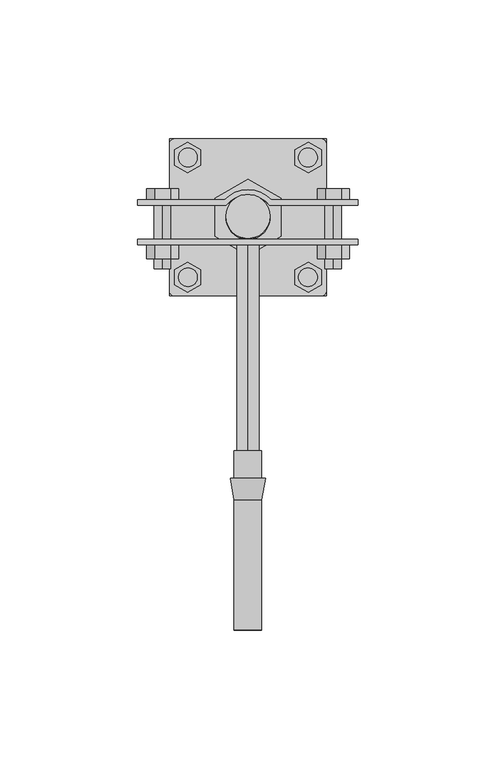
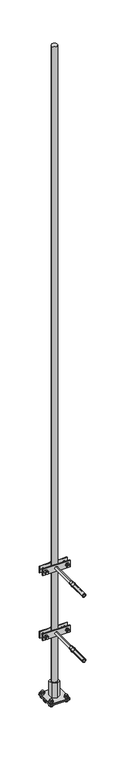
"""IFC4 building model written with IfcOpenShell, lengths in millimetres: proxy geometry, КНС_МолниеприемникСДержателями_DKC : NL7200CU_Медь_2м."""

from ifc_helpers import new_model, si_unit, point, frame, frame_2d, origin, origin_with_axes, place, context, project, spatial, polyline, circle_curve, trimmed, segment, composite_curve, outline, extrude, source, transform, mapped, element, save
from ifc_brep_helpers import plane_surface, cylinder_surface, revolved_surface, advanced_brep


def security_devices_8a53b376(model_context):
    return source(origin(), model_context, "Body", "SolidModel", [
        extrude(outline(composite_curve([segment(trimmed(circle_curve(frame_2d((0.0, 84.6885885)), 8.0), [point((0.0, 76.6885885))], [point((0.0, 92.6885885))], False, "CARTESIAN"), True, "CONTINUOUS"), segment(trimmed(circle_curve(frame_2d((0.0, 84.6885885)), 8.0), [point((0.0, 92.6885885))], [point((0.0, 76.6885885))], False, "CARTESIAN"), True, "CONTINUOUS")], self_intersect=False)), frame((0.0, 0.0, 2.5), z_axis=(0.0, 0.0, 1.0), x_axis=(1.0, 0.0, 0.0)), (0.0, 0.0, 1.0), 45.0),
        extrude(outline(composite_curve([segment(polyline([(56.1885885, -3.5), (56.1885885, -1.0), (79.6885885, -1.0)]), True, "CONTINUOUS"), segment(trimmed(circle_curve(frame_2d((84.6885885, -1.0)), 5.0), [point((79.6885885, -1.0))], [point((89.6885885, -1.0))], True, "CARTESIAN"), True, "CONTINUOUS"), segment(polyline([(89.6885885, -1.0), (113.1885885, -1.0), (113.1885885, -3.5), (91.7596563, -3.5)]), True, "CONTINUOUS"), segment(trimmed(circle_curve(frame_2d((84.6885885, -1.0)), 7.5), [point((91.7596563, -3.5))], [point((77.6175207, -3.5))], False, "CARTESIAN"), True, "CONTINUOUS"), segment(polyline([(77.6175207, -3.5), (56.1885885, -3.5)]), True, "CONTINUOUS")], self_intersect=False)), frame((-28.5, 0.0, 0.0), z_axis=(1.0, 0.0, 0.0), x_axis=(0.0, 1.0, 0.0)), (0.0, 0.0, 1.0), 57.0),
        extrude(outline(composite_curve([segment(trimmed(circle_curve(frame_2d((-21.78125, 62.9764828)), 3.4209609), [point((-21.78125, 59.5555219))], [point((-21.78125, 66.3974437))], False, "CARTESIAN"), True, "CONTINUOUS"), segment(trimmed(circle_curve(frame_2d((-21.78125, 62.9764828)), 3.4209609), [point((-21.78125, 66.3974437))], [point((-21.78125, 59.5555219))], False, "CARTESIAN"), True, "CONTINUOUS")], self_intersect=False)), frame((0.0, 0.0, -3.5), z_axis=(0.0, 0.0, 1.0), x_axis=(1.0, 0.0, 0.0)), (0.0, 0.0, 1.0), 13.5),
        extrude(outline(composite_curve([segment(trimmed(circle_curve(frame_2d((-21.78125, 106.4006942)), 3.4209609), [point((-21.78125, 102.9797333))], [point((-21.78125, 109.8216551))], False, "CARTESIAN"), True, "CONTINUOUS"), segment(trimmed(circle_curve(frame_2d((-21.78125, 106.4006942)), 3.4209609), [point((-21.78125, 109.8216551))], [point((-21.78125, 102.9797333))], False, "CARTESIAN"), True, "CONTINUOUS")], self_intersect=False)), frame((0.0, 0.0, -3.5), z_axis=(0.0, 0.0, 1.0), x_axis=(1.0, 0.0, 0.0)), (0.0, 0.0, 1.0), 13.5),
        extrude(outline(composite_curve([segment(trimmed(circle_curve(frame_2d((21.78125, 62.9764828)), 3.4209609), [point((21.78125, 59.5555219))], [point((21.78125, 66.3974437))], False, "CARTESIAN"), True, "CONTINUOUS"), segment(trimmed(circle_curve(frame_2d((21.78125, 62.9764828)), 3.4209609), [point((21.78125, 66.3974437))], [point((21.78125, 59.5555219))], False, "CARTESIAN"), True, "CONTINUOUS")], self_intersect=False)), frame((0.0, 0.0, -3.5), z_axis=(0.0, 0.0, 1.0), x_axis=(1.0, 0.0, 0.0)), (0.0, 0.0, 1.0), 13.5),
        extrude(outline(composite_curve([segment(trimmed(circle_curve(frame_2d((21.78125, 106.4006942)), 3.4209609), [point((21.78125, 102.9797333))], [point((21.78125, 109.8216551))], False, "CARTESIAN"), True, "CONTINUOUS"), segment(trimmed(circle_curve(frame_2d((21.78125, 106.4006942)), 3.4209609), [point((21.78125, 109.8216551))], [point((21.78125, 102.9797333))], False, "CARTESIAN"), True, "CONTINUOUS")], self_intersect=False)), frame((0.0, 0.0, -3.5), z_axis=(0.0, 0.0, 1.0), x_axis=(1.0, 0.0, 0.0)), (0.0, 0.0, 1.0), 13.5),
        extrude(outline(polyline([(-21.8883083, 57.4889661), (-26.6406371, 60.2327244), (-26.6406371, 65.7202411), (-21.8883083, 68.4639995), (-17.1359794, 65.7202411), (-17.1359794, 60.2327244), (-21.8883083, 57.4889661)])), frame((0.0, 0.0, 2.5), z_axis=(0.0, 0.0, 1.0), x_axis=(1.0, 0.0, 0.0)), (0.0, 0.0, 1.0), 5.0),
        extrude(outline(polyline([(-21.8883083, 111.8882109), (-17.1359794, 109.1444525), (-17.1359794, 103.6569358), (-21.8883083, 100.9131775), (-26.6406371, 103.6569358), (-26.6406371, 109.1444525), (-21.8883083, 111.8882109)])), frame((0.0, 0.0, 2.5), z_axis=(0.0, 0.0, 1.0), x_axis=(1.0, 0.0, 0.0)), (0.0, 0.0, 1.0), 5.0),
        extrude(outline(polyline([(21.8883083, 57.4889661), (17.1359794, 60.2327244), (17.1359794, 65.7202411), (21.8883083, 68.4639995), (26.6406371, 65.7202411), (26.6406371, 60.2327244), (21.8883083, 57.4889661)])), frame((0.0, 0.0, 2.5), z_axis=(0.0, 0.0, 1.0), x_axis=(1.0, 0.0, 0.0)), (0.0, 0.0, 1.0), 5.0),
        extrude(outline(polyline([(21.8883083, 111.8882109), (26.6406371, 109.1444525), (26.6406371, 103.6569358), (21.8883083, 100.9131775), (17.1359794, 103.6569358), (17.1359794, 109.1444525), (21.8883083, 111.8882109)])), frame((0.0, 0.0, 2.5), z_axis=(0.0, 0.0, 1.0), x_axis=(1.0, 0.0, 0.0)), (0.0, 0.0, 1.0), 5.0),
        extrude(outline(polyline([(-21.8883083, 57.4889661), (-26.6406371, 60.2327244), (-26.6406371, 65.7202411), (-21.8883083, 68.4639995), (-17.1359794, 65.7202411), (-17.1359794, 60.2327244), (-21.8883083, 57.4889661)])), frame((0.0, 0.0, -8.5), z_axis=(0.0, 0.0, 1.0), x_axis=(1.0, 0.0, 0.0)), (0.0, 0.0, 1.0), 5.0),
        extrude(outline(polyline([(-21.8883083, 111.8882109), (-17.1359794, 109.1444525), (-17.1359794, 103.6569358), (-21.8883083, 100.9131775), (-26.6406371, 103.6569358), (-26.6406371, 109.1444525), (-21.8883083, 111.8882109)])), frame((0.0, 0.0, -8.5), z_axis=(0.0, 0.0, 1.0), x_axis=(1.0, 0.0, 0.0)), (0.0, 0.0, 1.0), 5.0),
        extrude(outline(polyline([(21.8883083, 57.4889661), (17.1359794, 60.2327244), (17.1359794, 65.7202411), (21.8883083, 68.4639995), (26.6406371, 65.7202411), (26.6406371, 60.2327244), (21.8883083, 57.4889661)])), frame((0.0, 0.0, -8.5), z_axis=(0.0, 0.0, 1.0), x_axis=(1.0, 0.0, 0.0)), (0.0, 0.0, 1.0), 5.0),
        extrude(outline(polyline([(21.8883083, 111.8882109), (26.6406371, 109.1444525), (26.6406371, 103.6569358), (21.8883083, 100.9131775), (17.1359794, 103.6569358), (17.1359794, 109.1444525), (21.8883083, 111.8882109)])), frame((0.0, 0.0, -8.5), z_axis=(0.0, 0.0, 1.0), x_axis=(1.0, 0.0, 0.0)), (0.0, 0.0, 1.0), 5.0),
        extrude(outline(composite_curve([segment(trimmed(circle_curve(frame_2d((-26.5, 111.1885885)), 2.0), [point((-28.5, 111.1885885))], [point((-26.5, 113.1885885))], False, "CARTESIAN"), True, "CONTINUOUS"), segment(polyline([(-26.5, 113.1885885), (26.5, 113.1885885)]), True, "CONTINUOUS"), segment(trimmed(circle_curve(frame_2d((26.5, 111.1885885)), 2.0), [point((26.5, 113.1885885))], [point((28.5, 111.1885885))], False, "CARTESIAN"), True, "CONTINUOUS"), segment(polyline([(28.5, 111.1885885), (28.5, 58.1885885)]), True, "CONTINUOUS"), segment(trimmed(circle_curve(frame_2d((26.5, 58.1885885)), 2.0), [point((28.5, 58.1885885))], [point((26.5, 56.1885885))], False, "CARTESIAN"), True, "CONTINUOUS"), segment(polyline([(26.5, 56.1885885), (-26.5, 56.1885885)]), True, "CONTINUOUS"), segment(trimmed(circle_curve(frame_2d((-26.5, 58.1885885)), 2.0), [point((-26.5, 56.1885885))], [point((-28.5, 58.1885885))], False, "CARTESIAN"), True, "CONTINUOUS"), segment(polyline([(-28.5, 58.1885885), (-28.5, 111.1885885)]), True, "CONTINUOUS")], self_intersect=False)), origin_with_axes(), (0.0, 0.0, 1.0), 2.5),
        advanced_brep(
        [(-40.0, 74.6885885, 410.0), (40.0, 74.6885885, 410.0), (40.0, 76.6885885, 410.0), (-40.0, 76.6885885, 410.0), (-40.0, 74.6885885, 390.0), (-40.0, 76.6885885, 390.0), (40.0, 76.6885885, 390.0), (40.0, 74.6885885, 390.0), (0.0, 74.6885885, 404.0), (0.0, 74.6885885, 396.0), (0.0, -65.0, 396.0), (0.0, -65.0, 404.0)],
        [
            (0, 1),
            (1, 2),
            (2, 3),
            (3, 0),
            (4, 5),
            (5, 6),
            (6, 7),
            (7, 4),
            (0, 4),
            (7, 1),
            (8, 9, circle_curve(frame((0.0, 74.6885885, 400.0), z_axis=(0.0, 1.0, 0.0), x_axis=(0.0, 0.0, 1.0)), 4.0)),
            (9, 8, circle_curve(frame((0.0, 74.6885885, 400.0), z_axis=(0.0, 1.0, 0.0), x_axis=(0.0, 0.0, 1.0)), 4.0)),
            (6, 2),
            (5, 3),
            (10, 11, circle_curve(frame((0.0, -65.0, 400.0), z_axis=(0.0, -1.0, 0.0), x_axis=(0.0, 0.0, 1.0)), 4.0)),
            (11, 10, circle_curve(frame((0.0, -65.0, 400.0), z_axis=(0.0, -1.0, 0.0), x_axis=(0.0, 0.0, 1.0)), 4.0)),
            (10, 9),
            (8, 11),
        ],
        [
            plane_surface(frame((-40.0, 74.6885885, 410.0), z_axis=(0.0, 0.0, 1.0), x_axis=(1.0, 0.0, 0.0))),
            plane_surface(frame((-40.0, 74.6885885, 390.0), z_axis=(0.0, 0.0, -1.0), x_axis=(-1.0, 0.0, 0.0))),
            plane_surface(frame((-40.0, 74.6885885, 410.0), z_axis=(0.0, -1.0, 0.0), x_axis=(0.0, 0.0, -1.0))),
            plane_surface(frame((40.0, 74.6885885, 410.0), z_axis=(1.0, 0.0, 0.0), x_axis=(0.0, 0.0, -1.0))),
            plane_surface(frame((40.0, 76.6885885, 410.0), z_axis=(0.0, 1.0, 0.0), x_axis=(0.0, 0.0, -1.0))),
            plane_surface(frame((-40.0, 76.6885885, 410.0), z_axis=(-1.0, 0.0, 0.0), x_axis=(0.0, 0.0, -1.0))),
            plane_surface(frame((0.0, -65.0, 404.0), z_axis=(0.0, -1.0, 0.0), x_axis=(-1.0, 0.0, 0.0))),
            cylinder_surface(frame((0.0, 76.6885885, 400.0), z_axis=(0.0, -1.0, 0.0), x_axis=(0.0, 0.0, 1.0)), 4.0),
        ],
        [
            (0, [[1, 2, 3, 4]]),
            (1, [[5, 6, 7, 8]]),
            (2, [[-1, 9, -8, 10], [11, 12]]),
            (3, [[-2, -10, -7, 13]]),
            (4, [[-3, -13, -6, 14]]),
            (5, [[-4, -14, -5, -9]]),
            (6, [[15, 16]]),
            (7, [[-15, 17, -11, 18]]),
            (7, [[-16, -18, -12, -17]]),
        ],
    ),
        advanced_brep(
        [(6.3810583, -10.0, 400.0), (-6.3810583, -10.0, 400.0), (-5.0, -10.0, 400.0), (5.0, -10.0, 400.0), (5.0, -17.8323707, 400.0), (-5.0, -17.8323707, 400.0), (5.0, -65.0, 400.0), (-5.0, -65.0, 400.0), (3.0, -65.0, 400.0), (-3.0, -65.0, 400.0), (3.0, 0.0, 400.0), (-3.0, 0.0, 400.0), (5.0, 0.0, 400.0), (-5.0, 0.0, 400.0)],
        [
            (0, 1, circle_curve(frame((0.0, -10.0, 400.0), z_axis=(0.0, 1.0, 0.0), x_axis=(-1.0, 0.0, 0.0)), 6.3810583)),
            (1, 2),
            (2, 3, circle_curve(frame((0.0, -10.0, 400.0), z_axis=(0.0, -1.0, 0.0), x_axis=(-1.0, 0.0, 0.0)), 5.0)),
            (3, 0),
            (1, 0, circle_curve(frame((0.0, -10.0, 400.0), z_axis=(0.0, 1.0, 0.0), x_axis=(-1.0, 0.0, 0.0)), 6.3810583)),
            (3, 2, circle_curve(frame((0.0, -10.0, 400.0), z_axis=(0.0, -1.0, 0.0), x_axis=(-1.0, 0.0, 0.0)), 5.0)),
            (4, 5, circle_curve(frame((0.0, -17.8323707, 400.0), z_axis=(0.0, 1.0, 0.0), x_axis=(-1.0, 0.0, 0.0)), 5.0)),
            (5, 1),
            (0, 4),
            (5, 4, circle_curve(frame((0.0, -17.8323707, 400.0), z_axis=(0.0, 1.0, 0.0), x_axis=(-1.0, 0.0, 0.0)), 5.0)),
            (6, 7, circle_curve(frame((0.0, -65.0, 400.0), z_axis=(0.0, 1.0, 0.0), x_axis=(-1.0, 0.0, 0.0)), 5.0)),
            (7, 5),
            (4, 6),
            (7, 6, circle_curve(frame((0.0, -65.0, 400.0), z_axis=(0.0, 1.0, 0.0), x_axis=(-1.0, 0.0, 0.0)), 5.0)),
            (8, 9, circle_curve(frame((0.0, -65.0, 400.0), z_axis=(0.0, 1.0, 0.0), x_axis=(-1.0, 0.0, 0.0)), 3.0)),
            (9, 7),
            (6, 8),
            (9, 8, circle_curve(frame((0.0, -65.0, 400.0), z_axis=(0.0, 1.0, 0.0), x_axis=(-1.0, 0.0, 0.0)), 3.0)),
            (10, 11, circle_curve(frame((0.0, 0.0, 400.0), z_axis=(0.0, 1.0, 0.0), x_axis=(-1.0, 0.0, 0.0)), 3.0)),
            (11, 9),
            (8, 10),
            (11, 10, circle_curve(frame((0.0, 0.0, 400.0), z_axis=(0.0, 1.0, 0.0), x_axis=(-1.0, 0.0, 0.0)), 3.0)),
            (12, 13, circle_curve(frame((0.0, 0.0, 400.0), z_axis=(0.0, 1.0, 0.0), x_axis=(-1.0, 0.0, 0.0)), 5.0)),
            (13, 11),
            (10, 12),
            (13, 12, circle_curve(frame((0.0, 0.0, 400.0), z_axis=(0.0, 1.0, 0.0), x_axis=(-1.0, 0.0, 0.0)), 5.0)),
            (2, 13),
            (12, 3),
        ],
        [
            plane_surface(frame((0.0, -10.0, 400.0), z_axis=(0.0, 1.0, 0.0), x_axis=(-1.0, 0.0, 0.0))),
            revolved_surface(polyline([(-6.3810583, -10.0, 400.0), (-5.0, -17.8323707, 400.0)]), (0.0, 2000.0, 400.0), (0.0, -1.0, 0.0)),
            cylinder_surface(frame((0.0, 2000.0, 400.0), z_axis=(0.0, -1.0, 0.0), x_axis=(-1.0, 0.0, 0.0)), 5.0),
            plane_surface(frame((0.0, -65.0, 400.0), z_axis=(0.0, -1.0, 0.0), x_axis=(-1.0, 0.0, 0.0))),
            revolved_surface(polyline([(-3.0, -65.0, 400.0), (-3.0, 0.0, 400.0)]), (0.0, 2000.0, 400.0), (0.0, -1.0, 0.0)),
            plane_surface(frame((0.0, 0.0, 400.0), z_axis=(0.0, 1.0, 0.0), x_axis=(-1.0, 0.0, 0.0))),
        ],
        [
            (0, [[1, 2, 3, 4]]),
            (0, [[5, -4, 6, -2]]),
            (1, [[7, 8, -1, 9]]),
            (1, [[10, -9, -5, -8]]),
            (2, [[11, 12, -7, 13]]),
            (2, [[14, -13, -10, -12]]),
            (3, [[15, 16, -11, 17]]),
            (3, [[18, -17, -14, -16]]),
            (4, [[19, 20, -15, 21]]),
            (4, [[22, -21, -18, -20]]),
            (5, [[23, 24, -19, 25]]),
            (5, [[26, -25, -22, -24]]),
            (2, [[-3, 27, -23, 28]]),
            (2, [[-6, -28, -26, -27]]),
        ],
    ),
        extrude(outline(polyline([(400.0, 36.7735027), (405.0, 33.8867513), (405.0, 28.1132487), (400.0, 25.2264973), (395.0, 28.1132487), (395.0, 33.8867513), (400.0, 36.7735027)])), frame((0.0, 69.6885885, 0.0), z_axis=(0.0, 1.0, 0.0), x_axis=(0.0, 0.0, 1.0)), (0.0, 0.0, 1.0), 5.0),
        extrude(outline(polyline([(400.0, -25.2264973), (405.0, -28.1132487), (405.0, -33.8867513), (400.0, -36.7735027), (395.0, -33.8867513), (395.0, -28.1132487), (400.0, -25.2264973)])), frame((0.0, 69.6885885, 0.0), z_axis=(0.0, 1.0, 0.0), x_axis=(0.0, 0.0, 1.0)), (0.0, 0.0, 1.0), 5.0),
        extrude(outline(composite_curve([segment(trimmed(circle_curve(frame_2d((400.0, 31.0)), 3.0), [point((397.0, 31.0))], [point((403.0, 31.0))], False, "CARTESIAN"), True, "CONTINUOUS"), segment(trimmed(circle_curve(frame_2d((400.0, 31.0)), 3.0), [point((403.0, 31.0))], [point((397.0, 31.0))], False, "CARTESIAN"), True, "CONTINUOUS")], self_intersect=False)), frame((0.0, 66.0, 0.0), z_axis=(0.0, 1.0, 0.0), x_axis=(0.0, 0.0, 1.0)), (0.0, 0.0, 1.0), 25.0),
        extrude(outline(polyline([(400.0, 36.7735027), (405.0, 33.8867513), (405.0, 28.1132487), (400.0, 25.2264973), (395.0, 28.1132487), (395.0, 33.8867513), (400.0, 36.7735027)])), frame((0.0, 91.0, 0.0), z_axis=(0.0, 1.0, 0.0), x_axis=(0.0, 0.0, 1.0)), (0.0, 0.0, 1.0), 4.0),
        extrude(outline(polyline([(400.0, -25.2264973), (405.0, -28.1132487), (405.0, -33.8867513), (400.0, -36.7735027), (395.0, -33.8867513), (395.0, -28.1132487), (400.0, -25.2264973)])), frame((0.0, 91.0, 0.0), z_axis=(0.0, 1.0, 0.0), x_axis=(0.0, 0.0, 1.0)), (0.0, 0.0, 1.0), 4.0),
        extrude(outline(composite_curve([segment(trimmed(circle_curve(frame_2d((400.0, -31.0)), 3.0), [point((397.0, -31.0))], [point((403.0, -31.0))], False, "CARTESIAN"), True, "CONTINUOUS"), segment(trimmed(circle_curve(frame_2d((400.0, -31.0)), 3.0), [point((403.0, -31.0))], [point((397.0, -31.0))], False, "CARTESIAN"), True, "CONTINUOUS")], self_intersect=False)), frame((0.0, 66.0, 0.0), z_axis=(0.0, 1.0, 0.0), x_axis=(0.0, 0.0, 1.0)), (0.0, 0.0, 1.0), 25.0),
        extrude(outline(composite_curve([segment(trimmed(circle_curve(frame_2d((0.0, 82.8700945)), 11.7620306), [point((-8.5, 91.0))], [point((8.5, 91.0))], False, "CARTESIAN"), True, "CONTINUOUS"), segment(polyline([(8.5, 91.0), (40.0, 91.0), (40.0, 89.0), (7.9035116, 89.0)]), True, "CONTINUOUS"), segment(trimmed(circle_curve(frame_2d((0.0, 82.3768959)), 10.3116926), [point((7.9035116, 89.0))], [point((-7.9035116, 89.0))], True, "CARTESIAN"), True, "CONTINUOUS"), segment(polyline([(-7.9035116, 89.0), (-40.0, 89.0), (-40.0, 91.0), (-8.5, 91.0)]), True, "CONTINUOUS")], self_intersect=False)), frame((0.0, 0.0, 390.0), z_axis=(0.0, 0.0, 1.0), x_axis=(1.0, 0.0, 0.0)), (0.0, 0.0, 1.0), 20.0),
        advanced_brep(
        [(-40.0, 74.6885885, 210.0), (40.0, 74.6885885, 210.0), (40.0, 76.6885885, 210.0), (-40.0, 76.6885885, 210.0), (-40.0, 74.6885885, 190.0), (-40.0, 76.6885885, 190.0), (40.0, 76.6885885, 190.0), (40.0, 74.6885885, 190.0), (0.0, 74.6885885, 204.0), (0.0, 74.6885885, 196.0), (0.0, -65.0, 196.0), (0.0, -65.0, 204.0)],
        [
            (0, 1),
            (1, 2),
            (2, 3),
            (3, 0),
            (4, 5),
            (5, 6),
            (6, 7),
            (7, 4),
            (0, 4),
            (7, 1),
            (8, 9, circle_curve(frame((0.0, 74.6885885, 200.0), z_axis=(0.0, 1.0, 0.0), x_axis=(0.0, 0.0, 1.0)), 4.0)),
            (9, 8, circle_curve(frame((0.0, 74.6885885, 200.0), z_axis=(0.0, 1.0, 0.0), x_axis=(0.0, 0.0, 1.0)), 4.0)),
            (6, 2),
            (5, 3),
            (10, 11, circle_curve(frame((0.0, -65.0, 200.0), z_axis=(0.0, -1.0, 0.0), x_axis=(0.0, 0.0, 1.0)), 4.0)),
            (11, 10, circle_curve(frame((0.0, -65.0, 200.0), z_axis=(0.0, -1.0, 0.0), x_axis=(0.0, 0.0, 1.0)), 4.0)),
            (10, 9),
            (8, 11),
        ],
        [
            plane_surface(frame((-40.0, 74.6885885, 210.0), z_axis=(0.0, 0.0, 1.0), x_axis=(1.0, 0.0, 0.0))),
            plane_surface(frame((-40.0, 74.6885885, 190.0), z_axis=(0.0, 0.0, -1.0), x_axis=(-1.0, 0.0, 0.0))),
            plane_surface(frame((-40.0, 74.6885885, 210.0), z_axis=(0.0, -1.0, 0.0), x_axis=(0.0, 0.0, -1.0))),
            plane_surface(frame((40.0, 74.6885885, 210.0), z_axis=(1.0, 0.0, 0.0), x_axis=(0.0, 0.0, -1.0))),
            plane_surface(frame((40.0, 76.6885885, 210.0), z_axis=(0.0, 1.0, 0.0), x_axis=(0.0, 0.0, -1.0))),
            plane_surface(frame((-40.0, 76.6885885, 210.0), z_axis=(-1.0, 0.0, 0.0), x_axis=(0.0, 0.0, -1.0))),
            plane_surface(frame((0.0, -65.0, 204.0), z_axis=(0.0, -1.0, 0.0), x_axis=(-1.0, 0.0, 0.0))),
            cylinder_surface(frame((0.0, 76.6885885, 200.0), z_axis=(0.0, -1.0, 0.0), x_axis=(0.0, 0.0, 1.0)), 4.0),
        ],
        [
            (0, [[1, 2, 3, 4]]),
            (1, [[5, 6, 7, 8]]),
            (2, [[-1, 9, -8, 10], [11, 12]]),
            (3, [[-2, -10, -7, 13]]),
            (4, [[-3, -13, -6, 14]]),
            (5, [[-4, -14, -5, -9]]),
            (6, [[15, 16]]),
            (7, [[-15, 17, -11, 18]]),
            (7, [[-16, -18, -12, -17]]),
        ],
    ),
        advanced_brep(
        [(6.3810583, -10.0, 200.0), (-6.3810583, -10.0, 200.0), (-5.0, -10.0, 200.0), (5.0, -10.0, 200.0), (5.0, -17.8323707, 200.0), (-5.0, -17.8323707, 200.0), (5.0, -65.0, 200.0), (-5.0, -65.0, 200.0), (3.0, -65.0, 200.0), (-3.0, -65.0, 200.0), (3.0, 0.0, 200.0), (-3.0, 0.0, 200.0), (5.0, 0.0, 200.0), (-5.0, 0.0, 200.0)],
        [
            (0, 1, circle_curve(frame((0.0, -10.0, 200.0), z_axis=(0.0, 1.0, 0.0), x_axis=(-1.0, 0.0, 0.0)), 6.3810583)),
            (1, 2),
            (2, 3, circle_curve(frame((0.0, -10.0, 200.0), z_axis=(0.0, -1.0, 0.0), x_axis=(-1.0, 0.0, 0.0)), 5.0)),
            (3, 0),
            (1, 0, circle_curve(frame((0.0, -10.0, 200.0), z_axis=(0.0, 1.0, 0.0), x_axis=(-1.0, 0.0, 0.0)), 6.3810583)),
            (3, 2, circle_curve(frame((0.0, -10.0, 200.0), z_axis=(0.0, -1.0, 0.0), x_axis=(-1.0, 0.0, 0.0)), 5.0)),
            (4, 5, circle_curve(frame((0.0, -17.8323707, 200.0), z_axis=(0.0, 1.0, 0.0), x_axis=(-1.0, 0.0, 0.0)), 5.0)),
            (5, 1),
            (0, 4),
            (5, 4, circle_curve(frame((0.0, -17.8323707, 200.0), z_axis=(0.0, 1.0, 0.0), x_axis=(-1.0, 0.0, 0.0)), 5.0)),
            (6, 7, circle_curve(frame((0.0, -65.0, 200.0), z_axis=(0.0, 1.0, 0.0), x_axis=(-1.0, 0.0, 0.0)), 5.0)),
            (7, 5),
            (4, 6),
            (7, 6, circle_curve(frame((0.0, -65.0, 200.0), z_axis=(0.0, 1.0, 0.0), x_axis=(-1.0, 0.0, 0.0)), 5.0)),
            (8, 9, circle_curve(frame((0.0, -65.0, 200.0), z_axis=(0.0, 1.0, 0.0), x_axis=(-1.0, 0.0, 0.0)), 3.0)),
            (9, 7),
            (6, 8),
            (9, 8, circle_curve(frame((0.0, -65.0, 200.0), z_axis=(0.0, 1.0, 0.0), x_axis=(-1.0, 0.0, 0.0)), 3.0)),
            (10, 11, circle_curve(frame((0.0, 0.0, 200.0), z_axis=(0.0, 1.0, 0.0), x_axis=(-1.0, 0.0, 0.0)), 3.0)),
            (11, 9),
            (8, 10),
            (11, 10, circle_curve(frame((0.0, 0.0, 200.0), z_axis=(0.0, 1.0, 0.0), x_axis=(-1.0, 0.0, 0.0)), 3.0)),
            (12, 13, circle_curve(frame((0.0, 0.0, 200.0), z_axis=(0.0, 1.0, 0.0), x_axis=(-1.0, 0.0, 0.0)), 5.0)),
            (13, 11),
            (10, 12),
            (13, 12, circle_curve(frame((0.0, 0.0, 200.0), z_axis=(0.0, 1.0, 0.0), x_axis=(-1.0, 0.0, 0.0)), 5.0)),
            (2, 13),
            (12, 3),
        ],
        [
            plane_surface(frame((0.0, -10.0, 200.0), z_axis=(0.0, 1.0, 0.0), x_axis=(-1.0, 0.0, 0.0))),
            revolved_surface(polyline([(-6.3810583, -10.0, 200.0), (-5.0, -17.8323707, 200.0)]), (0.0, 2000.0, 200.0), (0.0, -1.0, 0.0)),
            cylinder_surface(frame((0.0, 2000.0, 200.0), z_axis=(0.0, -1.0, 0.0), x_axis=(-1.0, 0.0, 0.0)), 5.0),
            plane_surface(frame((0.0, -65.0, 200.0), z_axis=(0.0, -1.0, 0.0), x_axis=(-1.0, 0.0, 0.0))),
            revolved_surface(polyline([(-3.0, -65.0, 200.0), (-3.0, 0.0, 200.0)]), (0.0, 2000.0, 200.0), (0.0, -1.0, 0.0)),
            plane_surface(frame((0.0, 0.0, 200.0), z_axis=(0.0, 1.0, 0.0), x_axis=(-1.0, 0.0, 0.0))),
        ],
        [
            (0, [[1, 2, 3, 4]]),
            (0, [[5, -4, 6, -2]]),
            (1, [[7, 8, -1, 9]]),
            (1, [[10, -9, -5, -8]]),
            (2, [[11, 12, -7, 13]]),
            (2, [[14, -13, -10, -12]]),
            (3, [[15, 16, -11, 17]]),
            (3, [[18, -17, -14, -16]]),
            (4, [[19, 20, -15, 21]]),
            (4, [[22, -21, -18, -20]]),
            (5, [[23, 24, -19, 25]]),
            (5, [[26, -25, -22, -24]]),
            (2, [[-3, 27, -23, 28]]),
            (2, [[-6, -28, -26, -27]]),
        ],
    ),
        extrude(outline(polyline([(200.0, 36.7735027), (205.0, 33.8867513), (205.0, 28.1132487), (200.0, 25.2264973), (195.0, 28.1132487), (195.0, 33.8867513), (200.0, 36.7735027)])), frame((0.0, 69.6885885, 0.0), z_axis=(0.0, 1.0, 0.0), x_axis=(0.0, 0.0, 1.0)), (0.0, 0.0, 1.0), 5.0),
        extrude(outline(polyline([(200.0, -25.2264973), (205.0, -28.1132487), (205.0, -33.8867513), (200.0, -36.7735027), (195.0, -33.8867513), (195.0, -28.1132487), (200.0, -25.2264973)])), frame((0.0, 69.6885885, 0.0), z_axis=(0.0, 1.0, 0.0), x_axis=(0.0, 0.0, 1.0)), (0.0, 0.0, 1.0), 5.0),
        extrude(outline(composite_curve([segment(trimmed(circle_curve(frame_2d((200.0, 31.0)), 3.0), [point((197.0, 31.0))], [point((203.0, 31.0))], False, "CARTESIAN"), True, "CONTINUOUS"), segment(trimmed(circle_curve(frame_2d((200.0, 31.0)), 3.0), [point((203.0, 31.0))], [point((197.0, 31.0))], False, "CARTESIAN"), True, "CONTINUOUS")], self_intersect=False)), frame((0.0, 66.0, 0.0), z_axis=(0.0, 1.0, 0.0), x_axis=(0.0, 0.0, 1.0)), (0.0, 0.0, 1.0), 25.0),
        extrude(outline(polyline([(200.0, 36.7735027), (205.0, 33.8867513), (205.0, 28.1132487), (200.0, 25.2264973), (195.0, 28.1132487), (195.0, 33.8867513), (200.0, 36.7735027)])), frame((0.0, 91.0, 0.0), z_axis=(0.0, 1.0, 0.0), x_axis=(0.0, 0.0, 1.0)), (0.0, 0.0, 1.0), 4.0),
        extrude(outline(polyline([(200.0, -25.2264973), (205.0, -28.1132487), (205.0, -33.8867513), (200.0, -36.7735027), (195.0, -33.8867513), (195.0, -28.1132487), (200.0, -25.2264973)])), frame((0.0, 91.0, 0.0), z_axis=(0.0, 1.0, 0.0), x_axis=(0.0, 0.0, 1.0)), (0.0, 0.0, 1.0), 4.0),
        extrude(outline(composite_curve([segment(trimmed(circle_curve(frame_2d((200.0, -31.0)), 3.0), [point((197.0, -31.0))], [point((203.0, -31.0))], False, "CARTESIAN"), True, "CONTINUOUS"), segment(trimmed(circle_curve(frame_2d((200.0, -31.0)), 3.0), [point((203.0, -31.0))], [point((197.0, -31.0))], False, "CARTESIAN"), True, "CONTINUOUS")], self_intersect=False)), frame((0.0, 66.0, 0.0), z_axis=(0.0, 1.0, 0.0), x_axis=(0.0, 0.0, 1.0)), (0.0, 0.0, 1.0), 25.0),
        extrude(outline(composite_curve([segment(trimmed(circle_curve(frame_2d((0.0, 82.8700945)), 11.7620306), [point((-8.5, 91.0))], [point((8.5, 91.0))], False, "CARTESIAN"), True, "CONTINUOUS"), segment(polyline([(8.5, 91.0), (40.0, 91.0), (40.0, 89.0), (7.9035116, 89.0)]), True, "CONTINUOUS"), segment(trimmed(circle_curve(frame_2d((0.0, 82.3768959)), 10.3116926), [point((7.9035116, 89.0))], [point((-7.9035116, 89.0))], True, "CARTESIAN"), True, "CONTINUOUS"), segment(polyline([(-7.9035116, 89.0), (-40.0, 89.0), (-40.0, 91.0), (-8.5, 91.0)]), True, "CONTINUOUS")], self_intersect=False)), frame((0.0, 0.0, 190.0), z_axis=(0.0, 0.0, 1.0), x_axis=(1.0, 0.0, 0.0)), (0.0, 0.0, 1.0), 20.0),
        extrude(outline(polyline([(0.0, 98.5449949), (12.0, 91.6167917), (12.0, 77.7603852), (0.0, 70.832182), (-12.0, 77.7603852), (-12.0, 91.6167917), (0.0, 98.5449949)])), frame((0.0, 0.0, 2.5), z_axis=(0.0, 0.0, 1.0), x_axis=(1.0, 0.0, 0.0)), (0.0, 0.0, 1.0), 45.0),
        extrude(outline(composite_curve([segment(trimmed(circle_curve(frame_2d((0.0, 84.6885885)), 8.0), [point((-8.0, 84.6885885))], [point((8.0, 84.6885885))], False, "CARTESIAN"), True, "CONTINUOUS"), segment(trimmed(circle_curve(frame_2d((0.0, 84.6885885)), 8.0), [point((8.0, 84.6885885))], [point((-8.0, 84.6885885))], False, "CARTESIAN"), True, "CONTINUOUS")], self_intersect=False)), origin_with_axes(), (0.0, 0.0, 1.0), 2000.0),
    ])


if __name__ == "__main__":
    model = new_model("IFC4")
    model_context = context("Model", 3, world=origin())
    ifc_project = project(units=[si_unit("LENGTHUNIT", "METRE", prefix="MILLI")], contexts=[model_context])
    site = spatial("IfcSite", under=ifc_project)
    building = spatial("IfcBuilding", under=site)
    placement = place(None, origin())
    security_devices_shape = security_devices_8a53b376(model_context)
    element("IfcBuildingElementProxy", 1, Name="КНС_МолниеприемникСДержателями_DKC : NL7200CU_Медь_2м", ObjectType="КНС_МолниеприемникСДержателями_DKC : NL7200CU_Медь_2м", at=placement, inside=building, context=model_context, shape_type="MappedRepresentation", body=[
        mapped(security_devices_shape, transform((0.0, 0.0, 0.0), x_axis=(1.0, 0.0, 0.0), y_axis=(0.0, 1.0, 0.0), z_axis=(0.0, 0.0, 1.0))),
    ])
    save(model, "model.ifc")
